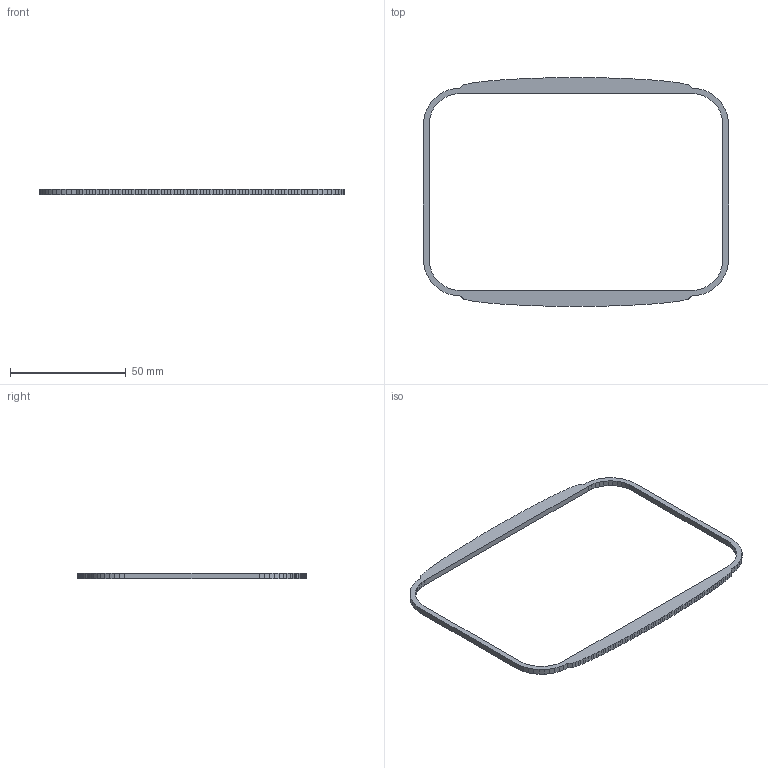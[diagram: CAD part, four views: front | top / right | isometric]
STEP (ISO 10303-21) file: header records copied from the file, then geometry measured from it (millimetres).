
FILE_DESCRIPTION(('Open CASCADE Model'),'2;1');
FILE_NAME('Open CASCADE Shape Model','2026-10-16T13:32:03',('Author'),( 'Open CASCADE'),'Open CASCADE STEP processor 7.9','Open CASCADE 7.9' ,'Unknown');
FILE_SCHEMA(('AUTOMOTIVE_DESIGN { 1 0 10303 214 1 1 1 1 }'));
Length unit declared in the file: millimetre
Products named in the file (1): Open CASCADE STEP translator 7.9 6
Bounding box: 132 x 99 x 2.5 mm (x, y, z)
Volume: 4242.2 mm3; surface area: 5445.4 mm2
Topology: 1 solids, 1 shells, 238 faces, 708 edges, 472 vertices
Faces by surface type: plane 238
Entity records: 16838 total; most frequent: CARTESIAN_POINT 3027, DIRECTION 2410, LINE 1932, VECTOR 1932, ORIENTED_EDGE 1416, PCURVE 1416, DEFINITIONAL_REPRESENTATION 1416, EDGE_CURVE 708
